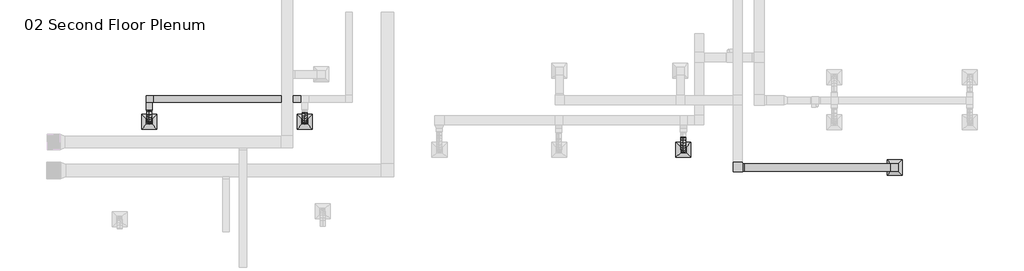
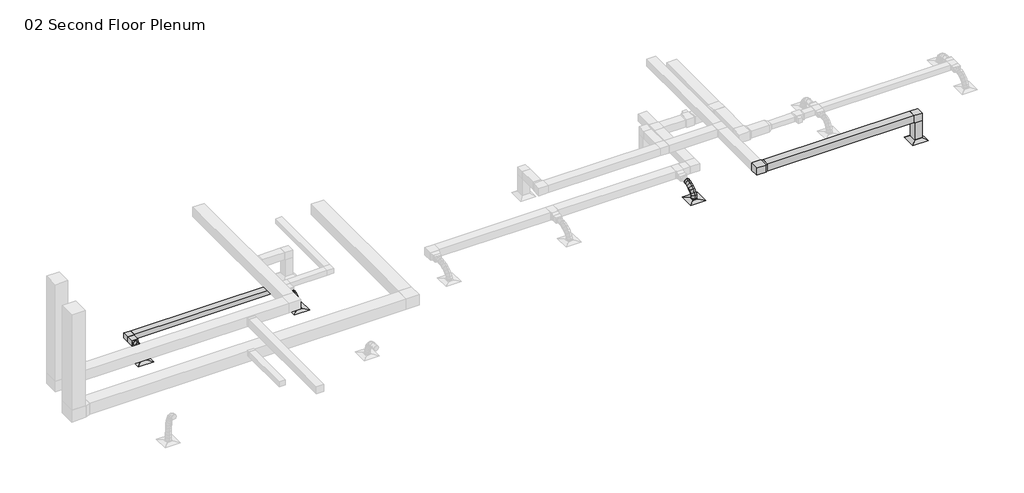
# One storey, part 4 of 12: 8 duct segments, 5 duct fittings, 4 air terminals.
"""IFC4 building model written with IfcOpenShell, lengths in millimetres."""

from ifc_helpers import new_model, si_unit, point, frame, frame_2d, origin, place, context, project, spatial, polyline, circle_curve, ellipse_curve, trimmed, segment, composite_curve, outline, extrude, transform, mapped, element, save
from ifc_brep_helpers import plane_surface, cylinder_surface, advanced_brep
from components import return_diffuser_d30_returndiffuser_24x24_12x12_connection_ff543d60, supply_diffuser_rectangular_face_round_neck_d30_6390248a, supply_diffuser_rectangular_face_round_neck_d30_79c6f163, rectangular_elbow_mitered_standard_f09b78ec, rectangular_elbow_mitered_standard_452c98c7, rectangular_elbow_mitered_standard_4ff1c4e8, rectangular_transition_angle_45_degree_65bf7615, rectangular_to_round_transition_angle_45_degree_e9430680

model = new_model("IFC4")

# Units and contexts
model_context = context("Model", 3, world=origin())
ifc_project = project(units=[si_unit("LENGTHUNIT", "METRE", prefix="MILLI")], contexts=[model_context])

# Site, building, storey
site = spatial("IfcSite", under=ifc_project)
building = spatial("IfcBuilding", under=site)
storey = spatial("IfcBuildingStorey", under=building, Name="02 Second Floor Plenum", Elevation=3048.0)

# Air terminals
placement = place(None, origin())
return_diffuser_d30_returndiffuser_24x24_12x12_connection_shape = return_diffuser_d30_returndiffuser_24x24_12x12_connection_ff543d60(model_context)
element("IfcAirTerminal", 1, ObjectType="Return Diffuser : D30_ReturnDiffuser_24x24 12x12 Connection", at=placement, inside=storey, context=model_context, shape_type="MappedRepresentation", body=[
    mapped(return_diffuser_d30_returndiffuser_24x24_12x12_connection_shape, transform((16597.5207383, -1231.3078325, 3048.0), x_axis=(1.0, 0.0, 0.0), y_axis=(0.0, 1.0, 0.0), z_axis=(0.0, 0.0, 1.0))),
])
supply_diffuser_rectangular_face_round_neck_d30_shape = supply_diffuser_rectangular_face_round_neck_d30_6390248a(model_context)
element("IfcAirTerminal", 2, ObjectType="Supply Diffuser - Rectangular Face Round Neck : D30_SupplyDiffuser_24x24 8 Neck", at=placement, inside=storey, context=model_context, shape_type="MappedRepresentation", body=[
    mapped(supply_diffuser_rectangular_face_round_neck_d30_shape, transform((-7262.3576996, 624.7206694, 3048.0), x_axis=(1.0, 0.0, 0.0), y_axis=(0.0, 1.0, 0.0), z_axis=(0.0, 0.0, 1.0))),
])
element("IfcAirTerminal", 3, ObjectType="Supply Diffuser - Rectangular Face Round Neck : D30_SupplyDiffuser_24x24 8 Neck", at=placement, inside=storey, context=model_context, shape_type="MappedRepresentation", body=[
    mapped(supply_diffuser_rectangular_face_round_neck_d30_shape, transform((-13550.923366, 624.7206694, 3048.0), x_axis=(1.0, 0.0, 0.0), y_axis=(0.0, 1.0, 0.0), z_axis=(0.0, 0.0, 1.0))),
])
supply_diffuser_rectangular_face_round_neck_d30_2_shape = supply_diffuser_rectangular_face_round_neck_d30_79c6f163(model_context)
element("IfcAirTerminal", 4, ObjectType="Supply Diffuser - Rectangular Face Round Neck : D30_SupplyDiffuser_24x24 8 Neck", at=placement, inside=storey, context=model_context, shape_type="MappedRepresentation", body=[
    mapped(supply_diffuser_rectangular_face_round_neck_d30_2_shape, transform((8055.87093, -520.1078325, 3048.0), x_axis=(1.0, 0.0, 0.0), y_axis=(0.0, 1.0, 0.0), z_axis=(0.0, 0.0, 1.0))),
])

# Duct fittings
rectangular_elbow_mitered_standard_shape = rectangular_elbow_mitered_standard_f09b78ec(model_context)
element("IfcDuctFitting", 5, ObjectType="Rectangular Elbow - Mitered : Standard", at=placement, inside=storey, context=model_context, shape_type="MappedRepresentation", body=[
    mapped(rectangular_elbow_mitered_standard_shape, transform((-13550.923366, 1533.3101985, 3505.2), x_axis=(-1.0, 0.0, 0.0), y_axis=(0.0, -1.0, 0.0), z_axis=(0.0, 0.0, 1.0))),
])
rectangular_elbow_mitered_standard_2_shape = rectangular_elbow_mitered_standard_452c98c7(model_context)
element("IfcDuctFitting", 6, ObjectType="Rectangular Elbow - Mitered : Standard", at=placement, inside=storey, context=model_context, shape_type="MappedRepresentation", body=[
    mapped(rectangular_elbow_mitered_standard_2_shape, transform((10252.2832383, -1231.3078325, 4038.6), x_axis=(0.0, -1.0, 0.0), y_axis=(1.0, 0.0, 0.0), z_axis=(0.0, 0.0, 1.0))),
])
rectangular_elbow_mitered_standard_3_shape = rectangular_elbow_mitered_standard_4ff1c4e8(model_context)
element("IfcDuctFitting", 7, ObjectType="Rectangular Elbow - Mitered : Standard", at=placement, inside=storey, context=model_context, shape_type="MappedRepresentation", body=[
    mapped(rectangular_elbow_mitered_standard_3_shape, transform((16597.5207383, -1231.3078325, 4038.6), x_axis=(0.0, 0.0, 1.0), y_axis=(-1.0, 0.0, 0.0), z_axis=(0.0, -1.0, 0.0))),
])
rectangular_transition_angle_45_degree_shape = rectangular_transition_angle_45_degree_65bf7615(model_context)
element("IfcDuctFitting", 8, ObjectType="Rectangular Transition - Angle : 45 Degree", at=placement, inside=storey, context=model_context, shape_type="MappedRepresentation", body=[
    mapped(rectangular_transition_angle_45_degree_shape, transform((10455.4832383, -1231.3078325, 4038.6), x_axis=(1.0, 0.0, 0.0), y_axis=(0.0, 1.0, 0.0), z_axis=(0.0, 0.0, 1.0))),
])
rectangular_to_round_transition_angle_45_degree_shape = rectangular_to_round_transition_angle_45_degree_e9430680(model_context)
element("IfcDuctFitting", 9, ObjectType="Rectangular to Round Transition - Angle : 45 Degree", at=placement, inside=storey, context=model_context, shape_type="MappedRepresentation", body=[
    mapped(rectangular_to_round_transition_angle_45_degree_shape, transform((-13550.923366, 1101.5101985, 3505.2), x_axis=(0.0, -1.0, 0.0), y_axis=(1.0, 0.0, 0.0), z_axis=(0.0, 0.0, 1.0))),
])

# Duct segments
element("IfcDuctSegment", 10, ObjectType="Flex - Round", at=placement, inside=storey, context=model_context, shape_type="AdvancedBrep", body=[
    advanced_brep(
    [(8157.47093, -10.2793306, 3505.2), (8055.87093, -10.2793306, 3403.6), (7954.27093, -10.2793306, 3505.2), (8055.87093, -10.2793306, 3606.8), (8157.47093, -21.7548637, 3505.2), (8055.87093, -15.2274692, 3403.6), (7954.27093, -21.7548637, 3505.2), (8055.87093, -28.2822582, 3606.8), (8157.47093, -520.1078325, 3101.975), (8055.87093, -621.7078325, 3101.975), (7954.27093, -520.1078325, 3101.975), (8055.87093, -418.5078325, 3101.975), (8157.47093, -106.7433855, 3494.2343923), (8055.87093, -84.9147306, 3394.6086308), (7954.27093, -106.7433855, 3494.2343923), (8055.87093, -128.5720403, 3593.8601537), (8157.47093, -206.1071276, 3463.1619198), (8055.87093, -167.7603452, 3368.7016146), (7954.27093, -206.1071276, 3463.1619198), (8055.87093, -244.45391, 3557.622225), (8157.47093, -301.9044622, 3414.7191087), (8055.87093, -248.5156699, 3327.8652494), (7954.27093, -301.9044622, 3414.7191087), (8055.87093, -355.2932545, 3501.5729679), (8157.47093, -387.6692947, 3351.6424851), (8055.87093, -319.6408314, 3275.5555217), (7954.27093, -387.6692947, 3351.6424851), (8055.87093, -455.697758, 3427.7294484), (8157.47093, -456.9355304, 3276.668575), (8055.87093, -373.8993328, 3216.8260127), (7954.27093, -456.9355304, 3276.668575), (8055.87093, -539.9717279, 3336.5111373), (8157.47093, -503.2370745, 3192.5339046), (8055.87093, -407.5029756, 3155.7647358), (7954.27093, -503.2370745, 3192.5339046), (8055.87093, -598.9711735, 3229.3030734), (8157.47093, -520.1078325, 3120.5825254), (8055.87093, -418.5078325, 3108.830589), (7954.27093, -520.1078325, 3120.5825254), (8055.87093, -621.7078325, 3132.3344618)],
    [
        (0, 1, circle_curve(frame((8055.87093, -10.2793306, 3505.2), z_axis=(0.0, 1.0, 0.0), x_axis=(1.0, 0.0, 0.0)), 101.6)),
        (1, 2, circle_curve(frame((8055.87093, -10.2793306, 3505.2), z_axis=(0.0, 1.0, 0.0), x_axis=(1.0, 0.0, 0.0)), 101.6)),
        (2, 3, circle_curve(frame((8055.87093, -10.2793306, 3505.2), z_axis=(0.0, 1.0, 0.0), x_axis=(1.0, 0.0, 0.0)), 101.6)),
        (3, 0, circle_curve(frame((8055.87093, -10.2793306, 3505.2), z_axis=(0.0, 1.0, 0.0), x_axis=(1.0, 0.0, 0.0)), 101.6)),
        (0, 4),
        (4, 5, ellipse_curve(frame((8055.87093, -21.7548637, 3505.2), z_axis=(0.0, 0.9979425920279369, 0.06411382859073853), x_axis=(0.0, 0.06411382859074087, -0.9979425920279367)), 101.8094636, 101.6)),
        (5, 1),
        (5, 6, ellipse_curve(frame((8055.87093, -21.7548637, 3505.2), z_axis=(0.0, 0.9979425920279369, 0.06411382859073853), x_axis=(0.0, 0.06411382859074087, -0.9979425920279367)), 101.8094636, 101.6)),
        (6, 2),
        (6, 7, ellipse_curve(frame((8055.87093, -21.7548637, 3505.2), z_axis=(0.0, 0.9979425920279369, 0.06411382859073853), x_axis=(0.0, 0.06411382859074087, -0.9979425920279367)), 101.8094636, 101.6)),
        (7, 3),
        (7, 4, ellipse_curve(frame((8055.87093, -21.7548637, 3505.2), z_axis=(0.0, 0.9979425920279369, 0.06411382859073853), x_axis=(0.0, 0.06411382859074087, -0.9979425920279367)), 101.8094636, 101.6)),
        (8, 9, circle_curve(frame((8055.87093, -520.1078325, 3101.975), z_axis=(0.0, 0.0, -1.0), x_axis=(1.0, 0.0, 0.0)), 101.6)),
        (9, 10, circle_curve(frame((8055.87093, -520.1078325, 3101.975), z_axis=(0.0, 0.0, -1.0), x_axis=(1.0, 0.0, 0.0)), 101.6)),
        (10, 11, circle_curve(frame((8055.87093, -520.1078325, 3101.975), z_axis=(0.0, 0.0, -1.0), x_axis=(1.0, 0.0, 0.0)), 101.6)),
        (11, 8, circle_curve(frame((8055.87093, -520.1078325, 3101.975), z_axis=(0.0, 0.0, -1.0), x_axis=(1.0, 0.0, 0.0)), 101.6)),
        (4, 12),
        (12, 13, ellipse_curve(frame((8055.87093, -106.7433855, 3494.2343923), z_axis=(0.0, 0.9768272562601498, 0.21402923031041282), x_axis=(0.0, 0.21402923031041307, -0.9768272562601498)), 101.9891294, 101.6)),
        (13, 5),
        (13, 14, ellipse_curve(frame((8055.87093, -106.7433855, 3494.2343923), z_axis=(0.0, 0.9768272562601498, 0.21402923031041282), x_axis=(0.0, 0.21402923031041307, -0.9768272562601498)), 101.9891294, 101.6)),
        (14, 6),
        (14, 15, ellipse_curve(frame((8055.87093, -106.7433855, 3494.2343923), z_axis=(0.0, 0.9768272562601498, 0.21402923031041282), x_axis=(0.0, 0.21402923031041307, -0.9768272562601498)), 101.9891294, 101.6)),
        (15, 7),
        (15, 12, ellipse_curve(frame((8055.87093, -106.7433855, 3494.2343923), z_axis=(0.0, 0.9768272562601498, 0.21402923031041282), x_axis=(0.0, 0.21402923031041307, -0.9768272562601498)), 101.9891294, 101.6)),
        (12, 16),
        (16, 17, ellipse_curve(frame((8055.87093, -206.1071276, 3463.1619198), z_axis=(0.0, 0.9265613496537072, 0.37614367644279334), x_axis=(0.0, 0.3761436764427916, -0.9265613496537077)), 101.9471675, 101.6)),
        (17, 13),
        (17, 18, ellipse_curve(frame((8055.87093, -206.1071276, 3463.1619198), z_axis=(0.0, 0.9265613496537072, 0.37614367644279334), x_axis=(0.0, 0.3761436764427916, -0.9265613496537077)), 101.9471675, 101.6)),
        (18, 14),
        (18, 19, ellipse_curve(frame((8055.87093, -206.1071276, 3463.1619198), z_axis=(0.0, 0.9265613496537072, 0.37614367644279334), x_axis=(0.0, 0.3761436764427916, -0.9265613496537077)), 101.9471675, 101.6)),
        (19, 15),
        (19, 16, ellipse_curve(frame((8055.87093, -206.1071276, 3463.1619198), z_axis=(0.0, 0.9265613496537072, 0.37614367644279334), x_axis=(0.0, 0.3761436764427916, -0.9265613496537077)), 101.9471675, 101.6)),
        (16, 20),
        (20, 21, ellipse_curve(frame((8055.87093, -301.9044622, 3414.7191087), z_axis=(0.0, 0.8519197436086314, 0.5236723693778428), x_axis=(0.0, 0.5236723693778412, -0.8519197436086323)), 101.9507529, 101.6)),
        (21, 17),
        (21, 22, ellipse_curve(frame((8055.87093, -301.9044622, 3414.7191087), z_axis=(0.0, 0.8519197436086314, 0.5236723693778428), x_axis=(0.0, 0.5236723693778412, -0.8519197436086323)), 101.9507529, 101.6)),
        (22, 18),
        (22, 23, ellipse_curve(frame((8055.87093, -301.9044622, 3414.7191087), z_axis=(0.0, 0.8519197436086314, 0.5236723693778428), x_axis=(0.0, 0.5236723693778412, -0.8519197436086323)), 101.9507529, 101.6)),
        (23, 19),
        (23, 20, ellipse_curve(frame((8055.87093, -301.9044622, 3414.7191087), z_axis=(0.0, 0.8519197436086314, 0.5236723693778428), x_axis=(0.0, 0.5236723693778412, -0.8519197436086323)), 101.9507529, 101.6)),
        (20, 24),
        (24, 25, ellipse_curve(frame((8055.87093, -387.6692947, 3351.6424851), z_axis=(0.0, 0.7454815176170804, 0.6665262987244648), x_axis=(0.0, 0.6665262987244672, -0.7454815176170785)), 102.0641848, 101.6)),
        (25, 21),
        (25, 26, ellipse_curve(frame((8055.87093, -387.6692947, 3351.6424851), z_axis=(0.0, 0.7454815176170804, 0.6665262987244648), x_axis=(0.0, 0.6665262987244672, -0.7454815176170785)), 102.0641848, 101.6)),
        (26, 22),
        (26, 27, ellipse_curve(frame((8055.87093, -387.6692947, 3351.6424851), z_axis=(0.0, 0.7454815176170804, 0.6665262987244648), x_axis=(0.0, 0.6665262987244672, -0.7454815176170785)), 102.0641848, 101.6)),
        (27, 23),
        (27, 24, ellipse_curve(frame((8055.87093, -387.6692947, 3351.6424851), z_axis=(0.0, 0.7454815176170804, 0.6665262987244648), x_axis=(0.0, 0.6665262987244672, -0.7454815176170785)), 102.0641848, 101.6)),
        (24, 28),
        (28, 29, ellipse_curve(frame((8055.87093, -456.9355304, 3276.668575), z_axis=(0.0, 0.5846682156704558, 0.8112725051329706), x_axis=(0.0, 0.8112725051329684, -0.5846682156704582)), 102.3530281, 101.6)),
        (29, 25),
        (29, 30, ellipse_curve(frame((8055.87093, -456.9355304, 3276.668575), z_axis=(0.0, 0.5846682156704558, 0.8112725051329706), x_axis=(0.0, 0.8112725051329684, -0.5846682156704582)), 102.3530281, 101.6)),
        (30, 26),
        (30, 31, ellipse_curve(frame((8055.87093, -456.9355304, 3276.668575), z_axis=(0.0, 0.5846682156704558, 0.8112725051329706), x_axis=(0.0, 0.8112725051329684, -0.5846682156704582)), 102.3530281, 101.6)),
        (31, 27),
        (31, 28, ellipse_curve(frame((8055.87093, -456.9355304, 3276.668575), z_axis=(0.0, 0.5846682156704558, 0.8112725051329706), x_axis=(0.0, 0.8112725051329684, -0.5846682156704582)), 102.3530281, 101.6)),
        (28, 32),
        (32, 33, ellipse_curve(frame((8055.87093, -503.2370745, 3192.5339046), z_axis=(0.0, 0.3585403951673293, 0.933514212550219), x_axis=(0.0, 0.9335142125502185, -0.35854039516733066)), 102.5523743, 101.6)),
        (33, 29),
        (33, 34, ellipse_curve(frame((8055.87093, -503.2370745, 3192.5339046), z_axis=(0.0, 0.3585403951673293, 0.933514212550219), x_axis=(0.0, 0.9335142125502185, -0.35854039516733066)), 102.5523743, 101.6)),
        (34, 30),
        (34, 35, ellipse_curve(frame((8055.87093, -503.2370745, 3192.5339046), z_axis=(0.0, 0.3585403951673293, 0.933514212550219), x_axis=(0.0, 0.9335142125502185, -0.35854039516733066)), 102.5523743, 101.6)),
        (35, 31),
        (35, 32, ellipse_curve(frame((8055.87093, -503.2370745, 3192.5339046), z_axis=(0.0, 0.3585403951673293, 0.933514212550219), x_axis=(0.0, 0.9335142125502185, -0.35854039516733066)), 102.5523743, 101.6)),
        (32, 36),
        (36, 37, ellipse_curve(frame((8055.87093, -520.1078325, 3120.5825254), z_axis=(0.0, 0.11490256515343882, 0.9933767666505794), x_axis=(0.0, 0.9933767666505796, -0.1149025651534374)), 102.2774071, 101.6)),
        (37, 33),
        (37, 38, ellipse_curve(frame((8055.87093, -520.1078325, 3120.5825254), z_axis=(0.0, 0.11490256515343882, 0.9933767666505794), x_axis=(0.0, 0.9933767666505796, -0.1149025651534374)), 102.2774071, 101.6)),
        (38, 34),
        (38, 39, ellipse_curve(frame((8055.87093, -520.1078325, 3120.5825254), z_axis=(0.0, 0.11490256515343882, 0.9933767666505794), x_axis=(0.0, 0.9933767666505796, -0.1149025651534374)), 102.2774071, 101.6)),
        (39, 35),
        (39, 36, ellipse_curve(frame((8055.87093, -520.1078325, 3120.5825254), z_axis=(0.0, 0.11490256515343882, 0.9933767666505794), x_axis=(0.0, 0.9933767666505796, -0.1149025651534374)), 102.2774071, 101.6)),
        (36, 8),
        (11, 37),
        (10, 38),
        (9, 39),
    ],
    [
        plane_surface(frame((7954.27093, -10.2793306, 3505.2), z_axis=(0.0, 1.0, 0.0), x_axis=(0.0, 0.0, -1.0))),
        cylinder_surface(frame((8055.87093, -10.2793306, 3505.2), z_axis=(0.0, 1.0, 0.0), x_axis=(1.0, 0.0, 0.0)), 101.6),
        plane_surface(frame((8055.87093, -621.7078325, 3101.975), z_axis=(0.0, 0.0, -1.0), x_axis=(-1.0, 0.0, 0.0))),
        cylinder_surface(frame((8055.87093, -21.7548637, 3505.2), z_axis=(0.0, 0.9917788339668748, 0.1279638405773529), x_axis=(1.0, 0.0, 0.0)), 101.6),
        cylinder_surface(frame((8055.87093, -106.7433855, 3494.2343923), z_axis=(0.0, 0.9544217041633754, 0.298461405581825), x_axis=(1.0, 0.0, 0.0)), 101.6),
        cylinder_surface(frame((8055.87093, -206.1071276, 3463.1619198), z_axis=(0.0, 0.8923904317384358, 0.4512641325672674), x_axis=(1.0, 0.0, 0.0)), 101.6),
        cylinder_surface(frame((8055.87093, -301.9044622, 3414.7191087), z_axis=(0.0, 0.8055871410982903, 0.5924773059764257), x_axis=(1.0, 0.0, 0.0)), 101.6),
        cylinder_surface(frame((8055.87093, -387.6692947, 3351.6424851), z_axis=(0.0, 0.6785950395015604, 0.7345126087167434), x_axis=(1.0, 0.0, 0.0)), 101.6),
        cylinder_surface(frame((8055.87093, -456.9355304, 3276.668575), z_axis=(0.0, 0.4821383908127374, 0.8760950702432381), x_axis=(1.0, 0.0, 0.0)), 101.6),
        cylinder_surface(frame((8055.87093, -503.2370745, 3192.5339046), z_axis=(0.0, 0.22828307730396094, 0.9735948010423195), x_axis=(1.0, 0.0, 0.0)), 101.6),
        cylinder_surface(frame((8055.87093, -520.1078325, 3120.5825254), z_axis=(0.0, 0.0, 1.0), x_axis=(1.0, 0.0, 0.0)), 101.6),
    ],
    [
        (0, [[1, 2, 3, 4]]),
        (1, [[-1, 5, 6, 7]]),
        (1, [[-2, -7, 8, 9]]),
        (1, [[-3, -9, 10, 11]]),
        (1, [[-4, -11, 12, -5]]),
        (2, [[13, 14, 15, 16]]),
        (3, [[-6, 17, 18, 19]]),
        (3, [[-8, -19, 20, 21]]),
        (3, [[-10, -21, 22, 23]]),
        (3, [[-12, -23, 24, -17]]),
        (4, [[-18, 25, 26, 27]]),
        (4, [[-20, -27, 28, 29]]),
        (4, [[-22, -29, 30, 31]]),
        (4, [[-24, -31, 32, -25]]),
        (5, [[-26, 33, 34, 35]]),
        (5, [[-28, -35, 36, 37]]),
        (5, [[-30, -37, 38, 39]]),
        (5, [[-32, -39, 40, -33]]),
        (6, [[-34, 41, 42, 43]]),
        (6, [[-36, -43, 44, 45]]),
        (6, [[-38, -45, 46, 47]]),
        (6, [[-40, -47, 48, -41]]),
        (7, [[-42, 49, 50, 51]]),
        (7, [[-44, -51, 52, 53]]),
        (7, [[-46, -53, 54, 55]]),
        (7, [[-48, -55, 56, -49]]),
        (8, [[-50, 57, 58, 59]]),
        (8, [[-52, -59, 60, 61]]),
        (8, [[-54, -61, 62, 63]]),
        (8, [[-56, -63, 64, -57]]),
        (9, [[-58, 65, 66, 67]]),
        (9, [[-60, -67, 68, 69]]),
        (9, [[-62, -69, 70, 71]]),
        (9, [[-64, -71, 72, -65]]),
        (10, [[-66, 73, -16, 74]]),
        (10, [[-68, -74, -15, 75]]),
        (10, [[-70, -75, -14, 76]]),
        (10, [[-72, -76, -13, -73]]),
    ],
),
])
element("IfcDuctSegment", 11, ObjectType="Flex - Round", at=placement, inside=storey, context=model_context, shape_type="AdvancedBrep", body=[
    advanced_brep(
    [(-7160.7576996, 974.5101985, 3505.2), (-7262.3576996, 974.5101985, 3403.6), (-7363.9576996, 974.5101985, 3505.2), (-7262.3576996, 974.5101985, 3606.8), (-7160.7576996, 954.6137948, 3505.2), (-7262.3576996, 967.523729, 3403.6), (-7363.9576996, 954.6137948, 3505.2), (-7262.3576996, 941.7038606, 3606.8), (-7160.7576996, 624.7206694, 3101.975), (-7262.3576996, 523.1206694, 3101.975), (-7363.9576996, 624.7206694, 3101.975), (-7262.3576996, 726.3206694, 3101.975), (-7160.7576996, 886.8173824, 3487.6879776), (-7262.3576996, 925.6757316, 3392.7905332), (-7363.9576996, 886.8173824, 3487.6879776), (-7262.3576996, 847.9590332, 3582.585422), (-7160.7576996, 804.7424491, 3440.2009728), (-7262.3576996, 866.5409581, 3358.5762712), (-7363.9576996, 804.7424491, 3440.2009728), (-7262.3576996, 742.9439401, 3521.8256744), (-7160.7576996, 732.8903549, 3370.3125791), (-7262.3576996, 811.2876614, 3304.8330338), (-7363.9576996, 732.8903549, 3370.3125791), (-7262.3576996, 654.4930484, 3435.7921243), (-7160.7576996, 675.866056, 3285.59639), (-7262.3576996, 765.9701374, 3237.5086123), (-7363.9576996, 675.866056, 3285.59639), (-7262.3576996, 585.7619746, 3333.6841677), (-7160.7576996, 638.2745087, 3193.6259991), (-7262.3576996, 736.4371349, 3165.2540239), (-7363.9576996, 638.2745087, 3193.6259991), (-7262.3576996, 540.1118825, 3221.9979744), (-7160.7576996, 624.7206694, 3116.8384969), (-7262.3576996, 726.3206694, 3107.9405129), (-7363.9576996, 624.7206694, 3116.8384969), (-7262.3576996, 523.1206694, 3125.736481)],
    [
        (0, 1, circle_curve(frame((-7262.3576996, 974.5101985, 3505.2), z_axis=(0.0, 1.0, 0.0), x_axis=(1.0, 0.0, 0.0)), 101.6)),
        (1, 2, circle_curve(frame((-7262.3576996, 974.5101985, 3505.2), z_axis=(0.0, 1.0, 0.0), x_axis=(1.0, 0.0, 0.0)), 101.6)),
        (2, 3, circle_curve(frame((-7262.3576996, 974.5101985, 3505.2), z_axis=(0.0, 1.0, 0.0), x_axis=(1.0, 0.0, 0.0)), 101.6)),
        (3, 0, circle_curve(frame((-7262.3576996, 974.5101985, 3505.2), z_axis=(0.0, 1.0, 0.0), x_axis=(1.0, 0.0, 0.0)), 101.6)),
        (0, 4),
        (4, 5, ellipse_curve(frame((-7262.3576996, 954.6137948, 3505.2), z_axis=(0.0, 0.9920235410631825, 0.12605274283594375), x_axis=(0.0, 0.1260527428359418, -0.9920235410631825)), 102.4169244, 101.6)),
        (5, 1),
        (5, 6, ellipse_curve(frame((-7262.3576996, 954.6137948, 3505.2), z_axis=(0.0, 0.9920235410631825, 0.12605274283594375), x_axis=(0.0, 0.1260527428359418, -0.9920235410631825)), 102.4169244, 101.6)),
        (6, 2),
        (6, 7, ellipse_curve(frame((-7262.3576996, 954.6137948, 3505.2), z_axis=(0.0, 0.9920235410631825, 0.12605274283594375), x_axis=(0.0, 0.1260527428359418, -0.9920235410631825)), 102.4169244, 101.6)),
        (7, 3),
        (7, 4, ellipse_curve(frame((-7262.3576996, 954.6137948, 3505.2), z_axis=(0.0, 0.9920235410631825, 0.12605274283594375), x_axis=(0.0, 0.1260527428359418, -0.9920235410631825)), 102.4169244, 101.6)),
        (8, 9, circle_curve(frame((-7262.3576996, 624.7206694, 3101.975), z_axis=(0.0, 0.0, -1.0), x_axis=(1.0, 0.0, 0.0)), 101.6)),
        (9, 10, circle_curve(frame((-7262.3576996, 624.7206694, 3101.975), z_axis=(0.0, 0.0, -1.0), x_axis=(1.0, 0.0, 0.0)), 101.6)),
        (10, 11, circle_curve(frame((-7262.3576996, 624.7206694, 3101.975), z_axis=(0.0, 0.0, -1.0), x_axis=(1.0, 0.0, 0.0)), 101.6)),
        (11, 8, circle_curve(frame((-7262.3576996, 624.7206694, 3101.975), z_axis=(0.0, 0.0, -1.0), x_axis=(1.0, 0.0, 0.0)), 101.6)),
        (4, 12),
        (12, 13, ellipse_curve(frame((-7262.3576996, 886.8173824, 3487.6879776), z_axis=(0.0, 0.9254215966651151, 0.37893913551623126), x_axis=(0.0, 0.37893913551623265, -0.9254215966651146)), 102.5450938, 101.6)),
        (13, 5),
        (13, 14, ellipse_curve(frame((-7262.3576996, 886.8173824, 3487.6879776), z_axis=(0.0, 0.9254215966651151, 0.37893913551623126), x_axis=(0.0, 0.37893913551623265, -0.9254215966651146)), 102.5450938, 101.6)),
        (14, 6),
        (14, 15, ellipse_curve(frame((-7262.3576996, 886.8173824, 3487.6879776), z_axis=(0.0, 0.9254215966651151, 0.37893913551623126), x_axis=(0.0, 0.37893913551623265, -0.9254215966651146)), 102.5450938, 101.6)),
        (15, 7),
        (15, 12, ellipse_curve(frame((-7262.3576996, 886.8173824, 3487.6879776), z_axis=(0.0, 0.9254215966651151, 0.37893913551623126), x_axis=(0.0, 0.37893913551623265, -0.9254215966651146)), 102.5450938, 101.6)),
        (12, 16),
        (16, 17, ellipse_curve(frame((-7262.3576996, 804.7424491, 3440.2009728), z_axis=(0.0, 0.7972725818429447, 0.6036194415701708), x_axis=(0.0, 0.6036194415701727, -0.7972725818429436)), 102.3799181, 101.6)),
        (17, 13),
        (17, 18, ellipse_curve(frame((-7262.3576996, 804.7424491, 3440.2009728), z_axis=(0.0, 0.7972725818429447, 0.6036194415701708), x_axis=(0.0, 0.6036194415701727, -0.7972725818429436)), 102.3799181, 101.6)),
        (18, 14),
        (18, 19, ellipse_curve(frame((-7262.3576996, 804.7424491, 3440.2009728), z_axis=(0.0, 0.7972725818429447, 0.6036194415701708), x_axis=(0.0, 0.6036194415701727, -0.7972725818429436)), 102.3799181, 101.6)),
        (19, 15),
        (19, 16, ellipse_curve(frame((-7262.3576996, 804.7424491, 3440.2009728), z_axis=(0.0, 0.7972725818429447, 0.6036194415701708), x_axis=(0.0, 0.6036194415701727, -0.7972725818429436)), 102.3799181, 101.6)),
        (16, 20),
        (20, 21, ellipse_curve(frame((-7262.3576996, 732.8903549, 3370.3125791), z_axis=(0.0, 0.6410417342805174, 0.7675060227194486), x_axis=(0.0, 0.7675060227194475, -0.6410417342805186)), 102.1455262, 101.6)),
        (21, 17),
        (21, 22, ellipse_curve(frame((-7262.3576996, 732.8903549, 3370.3125791), z_axis=(0.0, 0.6410417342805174, 0.7675060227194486), x_axis=(0.0, 0.7675060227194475, -0.6410417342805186)), 102.1455262, 101.6)),
        (22, 18),
        (22, 23, ellipse_curve(frame((-7262.3576996, 732.8903549, 3370.3125791), z_axis=(0.0, 0.6410417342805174, 0.7675060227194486), x_axis=(0.0, 0.7675060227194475, -0.6410417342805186)), 102.1455262, 101.6)),
        (23, 19),
        (23, 20, ellipse_curve(frame((-7262.3576996, 732.8903549, 3370.3125791), z_axis=(0.0, 0.6410417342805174, 0.7675060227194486), x_axis=(0.0, 0.7675060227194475, -0.6410417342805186)), 102.1455262, 101.6)),
        (20, 24),
        (24, 25, ellipse_curve(frame((-7262.3576996, 675.866056, 3285.59639), z_axis=(0.0, 0.47083418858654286, 0.8822217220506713), x_axis=(0.0, 0.8822217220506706, -0.4708341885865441)), 102.1331476, 101.6)),
        (25, 21),
        (25, 26, ellipse_curve(frame((-7262.3576996, 675.866056, 3285.59639), z_axis=(0.0, 0.47083418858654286, 0.8822217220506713), x_axis=(0.0, 0.8822217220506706, -0.4708341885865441)), 102.1331476, 101.6)),
        (26, 22),
        (26, 27, ellipse_curve(frame((-7262.3576996, 675.866056, 3285.59639), z_axis=(0.0, 0.47083418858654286, 0.8822217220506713), x_axis=(0.0, 0.8822217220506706, -0.4708341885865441)), 102.1331476, 101.6)),
        (27, 23),
        (27, 24, ellipse_curve(frame((-7262.3576996, 675.866056, 3285.59639), z_axis=(0.0, 0.47083418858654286, 0.8822217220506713), x_axis=(0.0, 0.8822217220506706, -0.4708341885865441)), 102.1331476, 101.6)),
        (24, 28),
        (28, 29, ellipse_curve(frame((-7262.3576996, 638.2745087, 3193.6259991), z_axis=(0.0, 0.27766505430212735, 0.9606779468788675), x_axis=(0.0, 0.960677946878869, -0.27766505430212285)), 102.1805762, 101.6)),
        (29, 25),
        (29, 30, ellipse_curve(frame((-7262.3576996, 638.2745087, 3193.6259991), z_axis=(0.0, 0.27766505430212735, 0.9606779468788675), x_axis=(0.0, 0.960677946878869, -0.27766505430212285)), 102.1805762, 101.6)),
        (30, 26),
        (30, 31, ellipse_curve(frame((-7262.3576996, 638.2745087, 3193.6259991), z_axis=(0.0, 0.27766505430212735, 0.9606779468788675), x_axis=(0.0, 0.960677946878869, -0.27766505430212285)), 102.1805762, 101.6)),
        (31, 27),
        (31, 28, ellipse_curve(frame((-7262.3576996, 638.2745087, 3193.6259991), z_axis=(0.0, 0.27766505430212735, 0.9606779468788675), x_axis=(0.0, 0.960677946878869, -0.27766505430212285)), 102.1805762, 101.6)),
        (28, 32),
        (32, 33, ellipse_curve(frame((-7262.3576996, 624.7206694, 3116.8384969), z_axis=(0.0, 0.08724463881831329, 0.9961869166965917), x_axis=(0.0, 0.9961869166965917, -0.08724463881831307)), 101.9888921, 101.6)),
        (33, 29),
        (33, 34, ellipse_curve(frame((-7262.3576996, 624.7206694, 3116.8384969), z_axis=(0.0, 0.08724463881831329, 0.9961869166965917), x_axis=(0.0, 0.9961869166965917, -0.08724463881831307)), 101.9888921, 101.6)),
        (34, 30),
        (34, 35, ellipse_curve(frame((-7262.3576996, 624.7206694, 3116.8384969), z_axis=(0.0, 0.08724463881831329, 0.9961869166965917), x_axis=(0.0, 0.9961869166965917, -0.08724463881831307)), 101.9888921, 101.6)),
        (35, 31),
        (35, 32, ellipse_curve(frame((-7262.3576996, 624.7206694, 3116.8384969), z_axis=(0.0, 0.08724463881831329, 0.9961869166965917), x_axis=(0.0, 0.9961869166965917, -0.08724463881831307)), 101.9888921, 101.6)),
        (32, 8),
        (11, 33),
        (10, 34),
        (9, 35),
    ],
    [
        plane_surface(frame((-7363.9576996, 974.5101985, 3505.2), z_axis=(0.0, 1.0, 0.0), x_axis=(0.0, 0.0, -1.0))),
        cylinder_surface(frame((-7262.3576996, 974.5101985, 3505.2), z_axis=(0.0, 1.0, 0.0), x_axis=(1.0, 0.0, 0.0)), 101.6),
        plane_surface(frame((-7262.3576996, 523.1206694, 3101.975), z_axis=(0.0, 0.0, -1.0), x_axis=(-1.0, 0.0, 0.0))),
        cylinder_surface(frame((-7262.3576996, 954.6137948, 3505.2), z_axis=(0.0, 0.9682214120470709, 0.2500945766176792), x_axis=(1.0, 0.0, 0.0)), 101.6),
        cylinder_surface(frame((-7262.3576996, 886.8173824, 3487.6879776), z_axis=(0.0, 0.8655637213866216, 0.5007988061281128), x_axis=(1.0, 0.0, 0.0)), 101.6),
        cylinder_surface(frame((-7262.3576996, 804.7424491, 3440.2009728), z_axis=(0.0, 0.7168343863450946, 0.6972434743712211), x_axis=(1.0, 0.0, 0.0)), 101.6),
        cylinder_surface(frame((-7262.3576996, 732.8903549, 3370.3125791), z_axis=(0.0, 0.5584018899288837, 0.8295705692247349), x_axis=(1.0, 0.0, 0.0)), 101.6),
        cylinder_surface(frame((-7262.3576996, 675.866056, 3285.59639), z_axis=(0.0, 0.3783508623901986, 0.9256622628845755), x_axis=(1.0, 0.0, 0.0)), 101.6),
        cylinder_surface(frame((-7262.3576996, 638.2745087, 3193.6259991), z_axis=(0.0, 0.17382393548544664, 0.9847767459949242), x_axis=(1.0, 0.0, 0.0)), 101.6),
        cylinder_surface(frame((-7262.3576996, 624.7206694, 3116.8384969), z_axis=(0.0, 0.0, 1.0), x_axis=(1.0, 0.0, 0.0)), 101.6),
    ],
    [
        (0, [[1, 2, 3, 4]]),
        (1, [[-1, 5, 6, 7]]),
        (1, [[-2, -7, 8, 9]]),
        (1, [[-3, -9, 10, 11]]),
        (1, [[-4, -11, 12, -5]]),
        (2, [[13, 14, 15, 16]]),
        (3, [[-6, 17, 18, 19]]),
        (3, [[-8, -19, 20, 21]]),
        (3, [[-10, -21, 22, 23]]),
        (3, [[-12, -23, 24, -17]]),
        (4, [[-18, 25, 26, 27]]),
        (4, [[-20, -27, 28, 29]]),
        (4, [[-22, -29, 30, 31]]),
        (4, [[-24, -31, 32, -25]]),
        (5, [[-26, 33, 34, 35]]),
        (5, [[-28, -35, 36, 37]]),
        (5, [[-30, -37, 38, 39]]),
        (5, [[-32, -39, 40, -33]]),
        (6, [[-34, 41, 42, 43]]),
        (6, [[-36, -43, 44, 45]]),
        (6, [[-38, -45, 46, 47]]),
        (6, [[-40, -47, 48, -41]]),
        (7, [[-42, 49, 50, 51]]),
        (7, [[-44, -51, 52, 53]]),
        (7, [[-46, -53, 54, 55]]),
        (7, [[-48, -55, 56, -49]]),
        (8, [[-50, 57, 58, 59]]),
        (8, [[-52, -59, 60, 61]]),
        (8, [[-54, -61, 62, 63]]),
        (8, [[-56, -63, 64, -57]]),
        (9, [[-58, 65, -16, 66]]),
        (9, [[-60, -66, -15, 67]]),
        (9, [[-62, -67, -14, 68]]),
        (9, [[-64, -68, -13, -65]]),
    ],
),
])
element("IfcDuctSegment", 12, ObjectType="Flex - Round", at=placement, inside=storey, context=model_context, shape_type="AdvancedBrep", body=[
    advanced_brep(
    [(-13449.323366, 923.7101985, 3505.2), (-13550.923366, 923.7101985, 3403.6), (-13652.523366, 923.7101985, 3505.2), (-13550.923366, 923.7101985, 3606.8), (-13449.323366, 901.1810308, 3505.2), (-13550.923366, 916.8599025, 3403.6), (-13652.523366, 901.1810308, 3505.2), (-13550.923366, 885.5021591, 3606.8), (-13449.323366, 624.7206694, 3101.975), (-13550.923366, 523.1206694, 3101.975), (-13652.523366, 624.7206694, 3101.975), (-13550.923366, 726.3206694, 3101.975), (-13449.323366, 843.4631485, 3486.951417), (-13550.923366, 888.4705663, 3394.6241828), (-13652.523366, 843.4631485, 3486.951417), (-13550.923366, 798.4557307, 3579.2786511), (-13449.323366, 771.8268074, 3437.8439788), (-13550.923366, 840.6045983, 3361.8115764), (-13652.523366, 771.8268074, 3437.8439788), (-13550.923366, 703.0490166, 3513.8763812), (-13449.323366, 711.4677822, 3366.3351517), (-13550.923366, 795.7972224, 3308.7271723), (-13652.523366, 711.4677822, 3366.3351517), (-13550.923366, 627.138342, 3423.9431312), (-13449.323366, 665.0526796, 3280.8824021), (-13550.923366, 758.7301852, 3240.4847236), (-13652.523366, 665.0526796, 3280.8824021), (-13550.923366, 571.3751741, 3321.2800806), (-13449.323366, 635.2481064, 3189.9431961), (-13550.923366, 734.6327272, 3166.9589704), (-13652.523366, 635.2481064, 3189.9431961), (-13550.923366, 535.8634856, 3212.9274217), (-13449.323366, 624.7206694, 3114.0476558), (-13550.923366, 726.3206694, 3107.034782), (-13652.523366, 624.7206694, 3114.0476558), (-13550.923366, 523.1206694, 3121.0605297)],
    [
        (0, 1, circle_curve(frame((-13550.923366, 923.7101985, 3505.2), z_axis=(0.0, 1.0, 0.0), x_axis=(1.0, 0.0, 0.0)), 101.6)),
        (1, 2, circle_curve(frame((-13550.923366, 923.7101985, 3505.2), z_axis=(0.0, 1.0, 0.0), x_axis=(1.0, 0.0, 0.0)), 101.6)),
        (2, 3, circle_curve(frame((-13550.923366, 923.7101985, 3505.2), z_axis=(0.0, 1.0, 0.0), x_axis=(1.0, 0.0, 0.0)), 101.6)),
        (3, 0, circle_curve(frame((-13550.923366, 923.7101985, 3505.2), z_axis=(0.0, 1.0, 0.0), x_axis=(1.0, 0.0, 0.0)), 101.6)),
        (0, 4),
        (4, 5, ellipse_curve(frame((-13550.923366, 901.1810308, 3505.2), z_axis=(0.0, 0.9883012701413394, 0.15251425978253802), x_axis=(0.0, 0.15251425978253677, -0.9883012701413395)), 102.8026606, 101.6)),
        (5, 1),
        (5, 6, ellipse_curve(frame((-13550.923366, 901.1810308, 3505.2), z_axis=(0.0, 0.9883012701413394, 0.15251425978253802), x_axis=(0.0, 0.15251425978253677, -0.9883012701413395)), 102.8026606, 101.6)),
        (6, 2),
        (6, 7, ellipse_curve(frame((-13550.923366, 901.1810308, 3505.2), z_axis=(0.0, 0.9883012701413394, 0.15251425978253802), x_axis=(0.0, 0.15251425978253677, -0.9883012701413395)), 102.8026606, 101.6)),
        (7, 3),
        (7, 4, ellipse_curve(frame((-13550.923366, 901.1810308, 3505.2), z_axis=(0.0, 0.9883012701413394, 0.15251425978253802), x_axis=(0.0, 0.15251425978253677, -0.9883012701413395)), 102.8026606, 101.6)),
        (8, 9, circle_curve(frame((-13550.923366, 624.7206694, 3101.975), z_axis=(0.0, 0.0, -1.0), x_axis=(1.0, 0.0, 0.0)), 101.6)),
        (9, 10, circle_curve(frame((-13550.923366, 624.7206694, 3101.975), z_axis=(0.0, 0.0, -1.0), x_axis=(1.0, 0.0, 0.0)), 101.6)),
        (10, 11, circle_curve(frame((-13550.923366, 624.7206694, 3101.975), z_axis=(0.0, 0.0, -1.0), x_axis=(1.0, 0.0, 0.0)), 101.6)),
        (11, 8, circle_curve(frame((-13550.923366, 624.7206694, 3101.975), z_axis=(0.0, 0.0, -1.0), x_axis=(1.0, 0.0, 0.0)), 101.6)),
        (4, 12),
        (12, 13, ellipse_curve(frame((-13550.923366, 843.4631485, 3486.951417), z_axis=(0.0, 0.8988844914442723, 0.4381856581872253), x_axis=(0.0, 0.43818565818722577, -0.8988844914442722)), 102.7131239, 101.6)),
        (13, 5),
        (13, 14, ellipse_curve(frame((-13550.923366, 843.4631485, 3486.951417), z_axis=(0.0, 0.8988844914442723, 0.4381856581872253), x_axis=(0.0, 0.43818565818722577, -0.8988844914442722)), 102.7131239, 101.6)),
        (14, 6),
        (14, 15, ellipse_curve(frame((-13550.923366, 843.4631485, 3486.951417), z_axis=(0.0, 0.8988844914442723, 0.4381856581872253), x_axis=(0.0, 0.43818565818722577, -0.8988844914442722)), 102.7131239, 101.6)),
        (15, 7),
        (15, 12, ellipse_curve(frame((-13550.923366, 843.4631485, 3486.951417), z_axis=(0.0, 0.8988844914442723, 0.4381856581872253), x_axis=(0.0, 0.43818565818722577, -0.8988844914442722)), 102.7131239, 101.6)),
        (12, 16),
        (16, 17, ellipse_curve(frame((-13550.923366, 771.8268074, 3437.8439788), z_axis=(0.0, 0.7416009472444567, 0.670841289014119), x_axis=(0.0, 0.6708412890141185, -0.7416009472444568)), 102.5246835, 101.6)),
        (17, 13),
        (17, 18, ellipse_curve(frame((-13550.923366, 771.8268074, 3437.8439788), z_axis=(0.0, 0.7416009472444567, 0.670841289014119), x_axis=(0.0, 0.6708412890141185, -0.7416009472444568)), 102.5246835, 101.6)),
        (18, 14),
        (18, 19, ellipse_curve(frame((-13550.923366, 771.8268074, 3437.8439788), z_axis=(0.0, 0.7416009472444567, 0.670841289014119), x_axis=(0.0, 0.6708412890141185, -0.7416009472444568)), 102.5246835, 101.6)),
        (19, 15),
        (19, 16, ellipse_curve(frame((-13550.923366, 771.8268074, 3437.8439788), z_axis=(0.0, 0.7416009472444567, 0.670841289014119), x_axis=(0.0, 0.6708412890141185, -0.7416009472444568)), 102.5246835, 101.6)),
        (16, 20),
        (20, 21, ellipse_curve(frame((-13550.923366, 711.4677822, 3366.3351517), z_axis=(0.0, 0.5640761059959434, 0.8257228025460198), x_axis=(0.0, 0.8257228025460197, -0.5640761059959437)), 102.1280265, 101.6)),
        (21, 17),
        (21, 22, ellipse_curve(frame((-13550.923366, 711.4677822, 3366.3351517), z_axis=(0.0, 0.5640761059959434, 0.8257228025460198), x_axis=(0.0, 0.8257228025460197, -0.5640761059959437)), 102.1280265, 101.6)),
        (22, 18),
        (22, 23, ellipse_curve(frame((-13550.923366, 711.4677822, 3366.3351517), z_axis=(0.0, 0.5640761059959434, 0.8257228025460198), x_axis=(0.0, 0.8257228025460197, -0.5640761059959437)), 102.1280265, 101.6)),
        (23, 19),
        (23, 20, ellipse_curve(frame((-13550.923366, 711.4677822, 3366.3351517), z_axis=(0.0, 0.5640761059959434, 0.8257228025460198), x_axis=(0.0, 0.8257228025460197, -0.5640761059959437)), 102.1280265, 101.6)),
        (20, 24),
        (24, 25, ellipse_curve(frame((-13550.923366, 665.0526796, 3280.8824021), z_axis=(0.0, 0.3959900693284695, 0.9182547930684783), x_axis=(0.0, 0.9182547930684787, -0.3959900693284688)), 102.016898, 101.6)),
        (25, 21),
        (25, 26, ellipse_curve(frame((-13550.923366, 665.0526796, 3280.8824021), z_axis=(0.0, 0.3959900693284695, 0.9182547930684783), x_axis=(0.0, 0.9182547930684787, -0.3959900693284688)), 102.016898, 101.6)),
        (26, 22),
        (26, 27, ellipse_curve(frame((-13550.923366, 665.0526796, 3280.8824021), z_axis=(0.0, 0.3959900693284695, 0.9182547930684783), x_axis=(0.0, 0.9182547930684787, -0.3959900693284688)), 102.016898, 101.6)),
        (27, 23),
        (27, 24, ellipse_curve(frame((-13550.923366, 665.0526796, 3280.8824021), z_axis=(0.0, 0.3959900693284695, 0.9182547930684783), x_axis=(0.0, 0.9182547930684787, -0.3959900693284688)), 102.016898, 101.6)),
        (24, 28),
        (28, 29, ellipse_curve(frame((-13550.923366, 635.2481064, 3189.9431961), z_axis=(0.0, 0.22531846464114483, 0.9742851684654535), x_axis=(0.0, 0.9742851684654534, -0.22531846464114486)), 102.0077325, 101.6)),
        (29, 25),
        (29, 30, ellipse_curve(frame((-13550.923366, 635.2481064, 3189.9431961), z_axis=(0.0, 0.22531846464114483, 0.9742851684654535), x_axis=(0.0, 0.9742851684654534, -0.22531846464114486)), 102.0077325, 101.6)),
        (30, 26),
        (30, 31, ellipse_curve(frame((-13550.923366, 635.2481064, 3189.9431961), z_axis=(0.0, 0.22531846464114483, 0.9742851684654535), x_axis=(0.0, 0.9742851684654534, -0.22531846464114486)), 102.0077325, 101.6)),
        (31, 27),
        (31, 28, ellipse_curve(frame((-13550.923366, 635.2481064, 3189.9431961), z_axis=(0.0, 0.22531846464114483, 0.9742851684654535), x_axis=(0.0, 0.9742851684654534, -0.22531846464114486)), 102.0077325, 101.6)),
        (28, 32),
        (32, 33, ellipse_curve(frame((-13550.923366, 624.7206694, 3114.0476558), z_axis=(0.0, 0.06886050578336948, 0.9976262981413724), x_axis=(0.0, 0.9976262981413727, -0.06886050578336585)), 101.8417419, 101.6)),
        (33, 29),
        (33, 34, ellipse_curve(frame((-13550.923366, 624.7206694, 3114.0476558), z_axis=(0.0, 0.06886050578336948, 0.9976262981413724), x_axis=(0.0, 0.9976262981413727, -0.06886050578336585)), 101.8417419, 101.6)),
        (34, 30),
        (34, 35, ellipse_curve(frame((-13550.923366, 624.7206694, 3114.0476558), z_axis=(0.0, 0.06886050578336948, 0.9976262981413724), x_axis=(0.0, 0.9976262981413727, -0.06886050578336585)), 101.8417419, 101.6)),
        (35, 31),
        (35, 32, ellipse_curve(frame((-13550.923366, 624.7206694, 3114.0476558), z_axis=(0.0, 0.06886050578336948, 0.9976262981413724), x_axis=(0.0, 0.9976262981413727, -0.06886050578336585)), 101.8417419, 101.6)),
        (32, 8),
        (11, 33),
        (10, 34),
        (9, 35),
    ],
    [
        plane_surface(frame((-13652.523366, 923.7101985, 3505.2), z_axis=(0.0, 1.0, 0.0), x_axis=(0.0, 0.0, -1.0))),
        cylinder_surface(frame((-13550.923366, 923.7101985, 3505.2), z_axis=(0.0, 1.0, 0.0), x_axis=(1.0, 0.0, 0.0)), 101.6),
        plane_surface(frame((-13550.923366, 523.1206694, 3101.975), z_axis=(0.0, 0.0, -1.0), x_axis=(-1.0, 0.0, 0.0))),
        cylinder_surface(frame((-13550.923366, 901.1810308, 3505.2), z_axis=(0.0, 0.953478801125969, 0.301460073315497), x_axis=(1.0, 0.0, 0.0)), 101.6),
        cylinder_surface(frame((-13550.923366, 843.4631485, 3486.951417), z_axis=(0.0, 0.8248073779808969, 0.565413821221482), x_axis=(1.0, 0.0, 0.0)), 101.6),
        cylinder_surface(frame((-13550.923366, 771.8268074, 3437.8439788), z_axis=(0.0, 0.6450173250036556, 0.7641679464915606), x_axis=(1.0, 0.0, 0.0)), 101.6),
        cylinder_surface(frame((-13550.923366, 711.4677822, 3366.3351517), z_axis=(0.0, 0.47730206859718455, 0.8787392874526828), x_axis=(1.0, 0.0, 0.0)), 101.6),
        cylinder_surface(frame((-13550.923366, 665.0526796, 3280.8824021), z_axis=(0.0, 0.3114415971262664, 0.9502652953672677), x_axis=(1.0, 0.0, 0.0)), 101.6),
        cylinder_surface(frame((-13550.923366, 635.2481064, 3189.9431961), z_axis=(0.0, 0.13739410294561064, 0.9905164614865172), x_axis=(1.0, 0.0, 0.0)), 101.6),
        cylinder_surface(frame((-13550.923366, 624.7206694, 3114.0476558), z_axis=(0.0, 0.0, 1.0), x_axis=(1.0, 0.0, 0.0)), 101.6),
    ],
    [
        (0, [[1, 2, 3, 4]]),
        (1, [[-1, 5, 6, 7]]),
        (1, [[-2, -7, 8, 9]]),
        (1, [[-3, -9, 10, 11]]),
        (1, [[-4, -11, 12, -5]]),
        (2, [[13, 14, 15, 16]]),
        (3, [[-6, 17, 18, 19]]),
        (3, [[-8, -19, 20, 21]]),
        (3, [[-10, -21, 22, 23]]),
        (3, [[-12, -23, 24, -17]]),
        (4, [[-18, 25, 26, 27]]),
        (4, [[-20, -27, 28, 29]]),
        (4, [[-22, -29, 30, 31]]),
        (4, [[-24, -31, 32, -25]]),
        (5, [[-26, 33, 34, 35]]),
        (5, [[-28, -35, 36, 37]]),
        (5, [[-30, -37, 38, 39]]),
        (5, [[-32, -39, 40, -33]]),
        (6, [[-34, 41, 42, 43]]),
        (6, [[-36, -43, 44, 45]]),
        (6, [[-38, -45, 46, 47]]),
        (6, [[-40, -47, 48, -41]]),
        (7, [[-42, 49, 50, 51]]),
        (7, [[-44, -51, 52, 53]]),
        (7, [[-46, -53, 54, 55]]),
        (7, [[-48, -55, 56, -49]]),
        (8, [[-50, 57, 58, 59]]),
        (8, [[-52, -59, 60, 61]]),
        (8, [[-54, -61, 62, 63]]),
        (8, [[-56, -63, 64, -57]]),
        (9, [[-58, 65, -16, 66]]),
        (9, [[-60, -66, -15, 67]]),
        (9, [[-62, -67, -14, 68]]),
        (9, [[-64, -68, -13, -65]]),
    ],
),
])
element("IfcDuctSegment", 13, ObjectType="Mitered Elbows / Tees", at=placement, inside=storey, context=model_context, shape_type="SweptSolid", body=[
    extrude(outline(polyline([(-7414.7576996, 1660.3101985), (-7414.7576996, 1406.3101985), (-13398.523366, 1406.3101985), (-13398.523366, 1660.3101985), (-7414.7576996, 1660.3101985)])), frame((0.0, 0.0, 3403.6), z_axis=(0.0, 0.0, 1.0), x_axis=(1.0, 0.0, 0.0)), (0.0, 0.0, 1.0), 203.2),
])
element("IfcDuctSegment", 14, ObjectType="Mitered Elbows / Tees", at=placement, inside=storey, context=model_context, shape_type="SweptSolid", body=[
    extrude(outline(polyline([(-13677.923366, 1380.9101985), (-13423.923366, 1380.9101985), (-13423.923366, 1101.5101985), (-13677.923366, 1101.5101985), (-13677.923366, 1380.9101985)])), frame((0.0, 0.0, 3403.6), z_axis=(0.0, 0.0, 1.0), x_axis=(1.0, 0.0, 0.0)), (0.0, 0.0, 1.0), 203.2),
])
element("IfcDuctSegment", 15, ObjectType="Mitered Elbows / Tees", at=placement, inside=storey, context=model_context, shape_type="SweptSolid", body=[
    extrude(outline(polyline([(10516.8042628, -1383.7078325), (10516.8042628, -1078.9078325), (16419.7207383, -1078.9078325), (16419.7207383, -1383.7078325), (10516.8042628, -1383.7078325)])), frame((0.0, 0.0, 3886.2), z_axis=(0.0, 0.0, 1.0), x_axis=(1.0, 0.0, 0.0)), (0.0, 0.0, 1.0), 304.8),
])
element("IfcDuctSegment", 16, ObjectType="Mitered Elbows / Tees", at=placement, inside=storey, context=model_context, shape_type="SweptSolid", body=[
    extrude(outline(polyline([(16749.9207383, -1383.7078325), (16445.1207383, -1383.7078325), (16445.1207383, -1078.9078325), (16749.9207383, -1078.9078325), (16749.9207383, -1383.7078325)])), frame((0.0, 0.0, 3149.6), z_axis=(0.0, 0.0, 1.0), x_axis=(1.0, 0.0, 0.0)), (0.0, 0.0, 1.0), 711.2),
])
element("IfcDuctSegment", 17, ObjectType="Taps", at=placement, inside=storey, context=model_context, shape_type="SweptSolid", body=[
    extrude(outline(composite_curve([segment(trimmed(circle_curve(frame_2d((3505.2, -13550.923366)), 101.6), [point((3505.2, -13652.523366))], [point((3403.6, -13550.923366))], False, "CARTESIAN"), True, "CONTINUOUS"), segment(trimmed(circle_curve(frame_2d((3505.2, -13550.923366)), 101.6), [point((3403.6, -13550.923366))], [point((3505.2, -13449.323366))], False, "CARTESIAN"), True, "CONTINUOUS"), segment(trimmed(circle_curve(frame_2d((3505.2, -13550.923366)), 101.6), [point((3505.2, -13449.323366))], [point((3606.8, -13550.923366))], False, "CARTESIAN"), True, "CONTINUOUS"), segment(trimmed(circle_curve(frame_2d((3505.2, -13550.923366)), 101.6), [point((3606.8, -13550.923366))], [point((3505.2, -13652.523366))], False, "CARTESIAN"), True, "CONTINUOUS")], self_intersect=False)), frame((0.0, 923.7101985, 0.0), z_axis=(0.0, 1.0, 0.0), x_axis=(0.0, 0.0, 1.0)), (0.0, 0.0, 1.0), 116.4789755),
])

save(model, "model.ifc")
